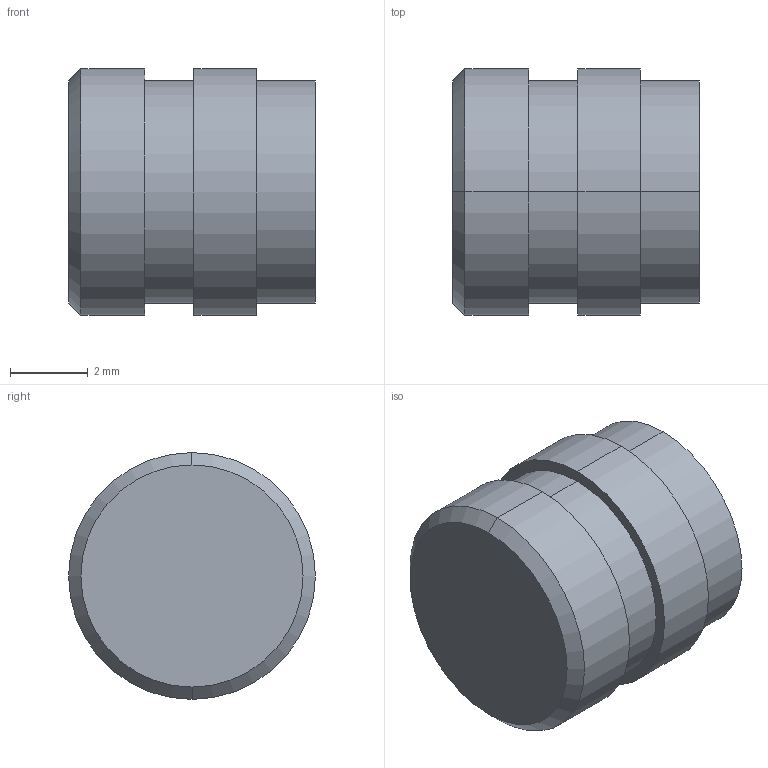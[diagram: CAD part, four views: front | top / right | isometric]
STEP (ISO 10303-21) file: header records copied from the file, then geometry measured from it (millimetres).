
FILE_DESCRIPTION(('starvars output'),'2;1');
FILE_NAME('cv20190722134204000028405.stp','13:42:04 2019/07/22',( 'Thomas Industrial Network Germany GmbH'),( 'Thomas Industrial Network Germany GmbH'),'unknown preprocess','ACIS' ,'unknown authorization');
FILE_SCHEMA(('AUTOMOTIVE_DESIGN_CC2 {UNKNOWN IMPLEMENTATION LEVEL}'));
Length unit declared in the file: millimetre
Products named in the file (1): PRODUCT_ID_2
Bounding box: 6.35 x 6.35 x 6.35 mm (x, y, z)
Volume: 134.9 mm3; surface area: 246.8 mm2
Topology: 1 solids, 1 shells, 24 faces, 48 edges, 29 vertices
Faces by surface type: cylinder 12, plane 6, cone 6
Entity records: 778 total; most frequent: ORIENTED_EDGE 92, CARTESIAN_POINT 76, DIRECTION 76, EDGE_CURVE 46, VERTEX_POINT 29, AXIS2_PLACEMENT_3D 29, EDGE_LOOP 29, FACE_BOUND 29
